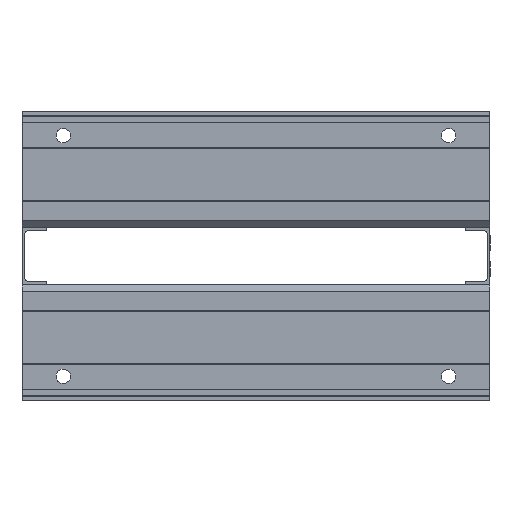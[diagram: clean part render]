
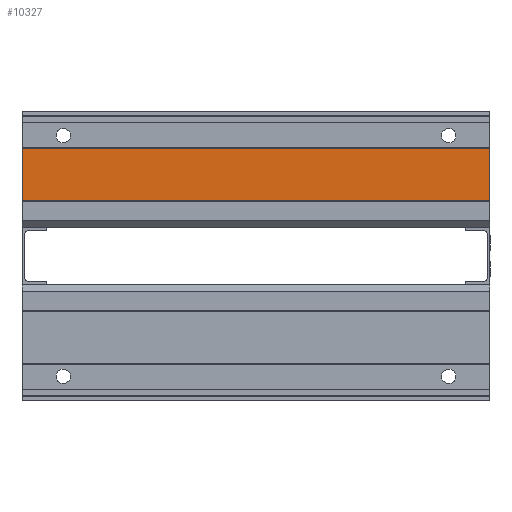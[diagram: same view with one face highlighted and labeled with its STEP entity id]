
A CAD part, front view. The second image highlights one B-rep face of the part: STEP entity #10327.
In plain terms, the highlighted planar face has unit normal (0, -1, 0).
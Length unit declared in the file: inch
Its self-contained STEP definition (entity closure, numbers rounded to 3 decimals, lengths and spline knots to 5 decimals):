
#1096 = LINE ( 'NONE', #11559, #1097 ) ;
#1097 = VECTOR ( 'NONE', #11547, 39.37008 ) ;
#1316 = LINE ( 'NONE', #11524, #7348 ) ;
#1807 = EDGE_CURVE ( 'NONE', #8966, #10990, #1316, .T. ) ;
#1961 = EDGE_CURVE ( 'NONE', #10990, #8965, #1096, .T. ) ;
#1998 = EDGE_CURVE ( 'NONE', #2256, #8965, #7451, .T. ) ;
#2048 = EDGE_CURVE ( 'NONE', #8966, #2256, #7533, .T. ) ;
#2256 = VERTEX_POINT ( 'NONE', #12548 ) ;
#6001 = FACE_OUTER_BOUND ( 'NONE', #7161, .T. ) ;
#7161 = EDGE_LOOP ( 'NONE', ( #9339, #9426, #9418, #9313 ) ) ;
#7348 = VECTOR ( 'NONE', #11522, 39.37008 ) ;
#7451 = LINE ( 'NONE', #11391, #7453 ) ;
#7453 = VECTOR ( 'NONE', #11555, 39.37008 ) ;
#7533 = LINE ( 'NONE', #10427, #7534 ) ;
#7534 = VECTOR ( 'NONE', #10424, 39.37008 ) ;
#8275 = DIRECTION ( 'NONE',  ( 0., 0., -1. ) ) ;
#8292 = PLANE ( 'NONE',  #8440 ) ;
#8294 = CARTESIAN_POINT ( 'NONE',  ( -12.125, 0.06, 4.069 ) ) ;
#8410 = DIRECTION ( 'NONE',  ( 0., -1., 0. ) ) ;
#8440 = AXIS2_PLACEMENT_3D ( 'NONE', #8294, #8410, #8275 ) ;
#8965 = VERTEX_POINT ( 'NONE', #10130 ) ;
#8966 = VERTEX_POINT ( 'NONE', #10131 ) ;
#9313 = ORIENTED_EDGE ( 'NONE', *, *, #1807, .T. ) ;
#9339 = ORIENTED_EDGE ( 'NONE', *, *, #1961, .T. ) ;
#9418 = ORIENTED_EDGE ( 'NONE', *, *, #2048, .F. ) ;
#9426 = ORIENTED_EDGE ( 'NONE', *, *, #1998, .F. ) ;
#10130 = CARTESIAN_POINT ( 'NONE',  ( 12.125, 0.06, 1.388 ) ) ;
#10131 = CARTESIAN_POINT ( 'NONE',  ( -12.125, 0.06, 4.069 ) ) ;
#10327 = ADVANCED_FACE ( 'NONE', ( #6001 ), #8292, .T. ) ;
#10424 = DIRECTION ( 'NONE',  ( 1., 0., 0. ) ) ;
#10427 = CARTESIAN_POINT ( 'NONE',  ( -12.125, 0.06, 4.069 ) ) ;
#10990 = VERTEX_POINT ( 'NONE', #11133 ) ;
#11133 = CARTESIAN_POINT ( 'NONE',  ( -12.125, 0.06, 1.388 ) ) ;
#11391 = CARTESIAN_POINT ( 'NONE',  ( 12.125, 0.06, 4.069 ) ) ;
#11522 = DIRECTION ( 'NONE',  ( 0., 0., -1. ) ) ;
#11524 = CARTESIAN_POINT ( 'NONE',  ( -12.125, 0.06, 4.069 ) ) ;
#11547 = DIRECTION ( 'NONE',  ( 1., 0., 0. ) ) ;
#11555 = DIRECTION ( 'NONE',  ( 0., 0., -1. ) ) ;
#11559 = CARTESIAN_POINT ( 'NONE',  ( -12.125, 0.06, 1.388 ) ) ;
#12548 = CARTESIAN_POINT ( 'NONE',  ( 12.125, 0.06, 4.069 ) ) ;
